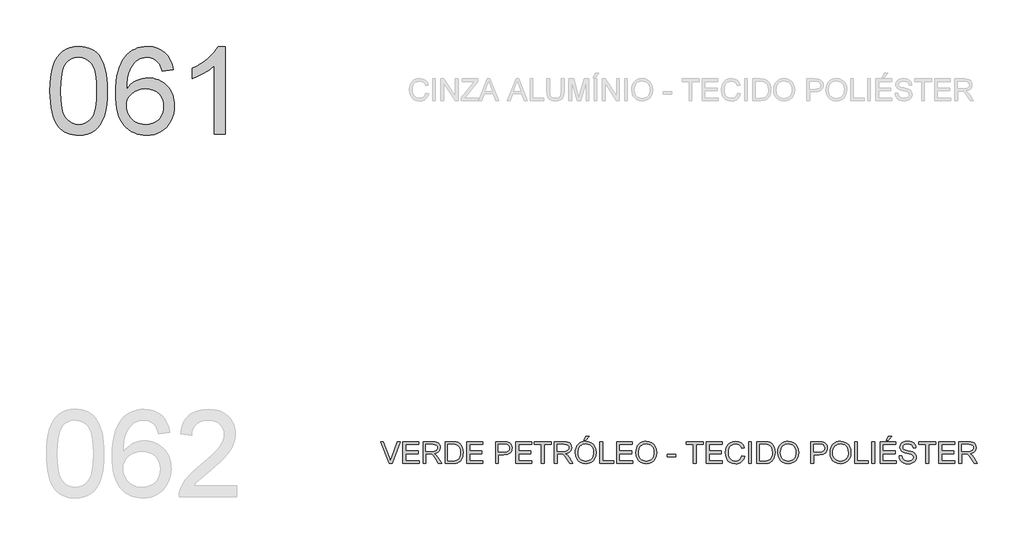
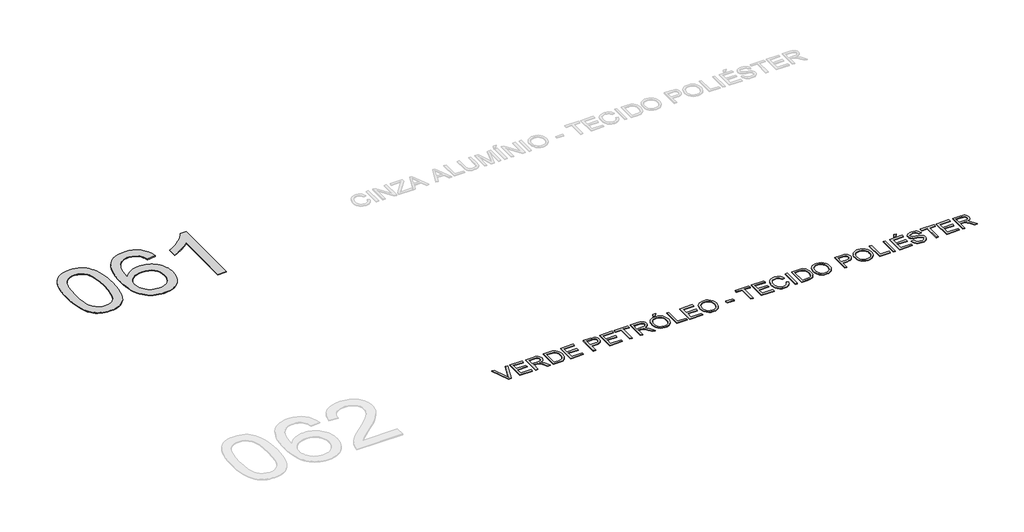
# One storey, part 15 of 39: 2 proxies.
"""IFC4 building model written with IfcOpenShell, lengths in millimetres."""

from ifc_helpers import new_model, si_unit, origin, origin_with_axes, place, context, project, spatial, polyline, outline, extrude, element, save

model = new_model("IFC4")

# Units and contexts
model_context = context("Model", 3, world=origin())
ifc_project = project(units=[si_unit("LENGTHUNIT", "METRE", prefix="MILLI")], contexts=[model_context])

# Site, building, storey
site = spatial("IfcSite", under=ifc_project)
building = spatial("IfcBuilding", under=site)
storey = spatial("IfcBuildingStorey", under=building, Name="Marelli - Linha PROFIT - Planta Baixa", Elevation=0.0)

# Proxies
placement = place(None, origin())
element("IfcBuildingElementProxy", 1, Name="1200mm Arial", ObjectType="1200mm Arial", at=placement, inside=storey, context=model_context, shape_type="SweptSolid", body=[
    extrude(outline(polyline([(-25265.8913909, -79395.792664), (-25263.1230789, -79294.4319773), (-25254.8181428, -79202.8385576), (-25240.9765828, -79121.0124048), (-25221.5983987, -79048.953519), (-25196.766364, -78986.073289), (-25166.5632522, -78931.7831035), (-25130.9890633, -78886.0829627), (-25090.0437972, -78848.9728664), (-25043.5894983, -78820.2596767), (-24991.4882107, -78799.7502555), (-24933.7399345, -78787.4446027), (-24870.3446697, -78783.3427185), (-24822.7039513, -78785.7707396), (-24777.4912541, -78793.0548031), (-24734.7065781, -78805.194909), (-24694.3499232, -78822.1910572), (-24657.3961768, -78843.7581391), (-24624.8202261, -78869.6110463), (-24596.6220712, -78899.7497788), (-24572.801712, -78934.1743365), (-24552.1635321, -78972.7467637), (-24533.5119149, -79015.3291046), (-24502.1683689, -79112.5235278), (-24490.19381, -79169.6831928), (-24481.6405536, -79235.9479371), (-24476.5085997, -79311.3177609), (-24474.7979485, -79395.792664), (-24477.5386693, -79496.5095573), (-24485.7608319, -79587.6431245), (-24499.4644362, -79669.1933658), (-24518.6494823, -79741.1602811), (-24543.2883789, -79804.0681023), (-24573.353535, -79858.4410612), (-24608.8449505, -79904.2791578), (-24649.7626254, -79941.5823921), (-24696.2721066, -79970.4887199), (-24748.5389411, -79991.1360968), (-24806.5631288, -80003.524523), (-24870.3446697, -80007.6539984), (-24913.0189811, -80005.8605737), (-24953.3388478, -80000.4802995), (-24991.3042697, -79991.5131759), (-25026.9152468, -79978.9592028), (-25060.1717792, -79962.8183803), (-25091.0738668, -79943.0907083), (-25119.6215096, -79919.7761868), (-25145.8147077, -79892.8748159), (-25173.9576803, -79850.2786794), (-25198.3482566, -79802.0999336), (-25218.9864365, -79748.3385785), (-25235.8722201, -79688.9946142), (-25249.0056073, -79624.0680406), (-25258.3865982, -79553.5588577), (-25264.0151927, -79477.4670655), (-25265.8913909, -79395.792664)]), holes=[polyline([(-25115.2069257, -79395.4983584), (-25110.7923417, -79526.4919399), (-25097.5485899, -79632.5247279), (-25087.615776, -79676.1808245), (-25075.4756702, -79713.5967226), (-25061.1282724, -79744.7724225), (-25044.5735826, -79769.7079239), (-25007.1967719, -79807.884878), (-24965.6996828, -79835.1541309), (-24920.0823154, -79851.5156826), (-24870.3446697, -79856.9695332), (-24820.6070239, -79851.4972885), (-24774.9896565, -79835.0805545), (-24733.4925675, -79807.7193311), (-24696.1157568, -79769.4136183), (-24679.561067, -79744.418336), (-24665.2136692, -79713.2104465), (-24653.0735633, -79675.7899498), (-24643.1407495, -79632.1568459), (-24629.8969976, -79526.2528166), (-24625.4824137, -79395.4983584), (-24629.7498448, -79267.9720648), (-24642.5521383, -79163.8062779), (-24652.1538583, -79120.4835744), (-24663.889294, -79083.0009976), (-24677.7584452, -79051.3585475), (-24693.761312, -79025.5562241), (-24730.5127233, -78985.5122689), (-24772.488059, -78956.9094438), (-24819.6873189, -78939.7477487), (-24872.1105033, -78934.0271837), (-24921.5906316, -78939.067167), (-24966.4354468, -78954.187117), (-25006.6449489, -78979.3870337), (-25042.2191378, -79014.666917), (-25059.3256506, -79043.2145599), (-25074.151295, -79077.2068562), (-25086.696071, -79116.6438061), (-25096.9599787, -79161.5254095), (-25110.6451889, -79267.6225769), (-25115.2069257, -79395.4983584)])]), origin_with_axes(), (0.0, 0.0, 1.0), 10.0),
    extrude(outline(polyline([(-23570.6911571, -79103.5472071), (-23721.3756223, -79122.3827652), (-23732.4488704, -79082.0812927), (-23745.655834, -79047.7027202), (-23760.9965132, -79019.2470479), (-23778.470908, -78996.7142757), (-23810.8629177, -78969.2886729), (-23846.8233827, -78949.6989567), (-23886.3523031, -78937.9451269), (-23929.4496788, -78934.0271837), (-23964.9870795, -78936.3080521), (-23999.4944107, -78943.1506572), (-24032.9716723, -78954.554999), (-24065.4188642, -78970.5210776), (-24095.0241678, -78996.6315022), (-24122.0359033, -79028.1681863), (-24146.4540707, -79065.1311297), (-24168.2786701, -79107.5203326), (-24186.3508731, -79158.1316981), (-24199.5118515, -79219.7611293), (-24207.7616052, -79292.4086263), (-24211.1001343, -79376.0741891), (-24182.3777475, -79338.2099347), (-24150.6571225, -79305.5512106), (-24115.9382592, -79278.0980167), (-24078.2211577, -79255.8503531), (-24038.5174933, -79238.6610669), (-23997.8389417, -79226.3830053), (-23956.1855028, -79219.0161683), (-23913.5571766, -79216.560556), (-23876.6586125, -79218.2390176), (-23841.158, -79223.2744024), (-23807.055339, -79231.6667104), (-23774.3506296, -79243.4159416), (-23743.0438719, -79258.5220961), (-23713.1350657, -79276.9851737), (-23684.624211, -79298.8051745), (-23657.511308, -79323.9820986), (-23632.7482512, -79351.81697), (-23611.2869353, -79381.6108131), (-23593.1273603, -79413.3636278), (-23578.2695262, -79447.0754142), (-23566.713433, -79482.7461721), (-23558.4590808, -79520.3759017), (-23553.5064694, -79559.9646029), (-23551.855599, -79601.5122757), (-23554.9642018, -79656.4462547), (-23564.2900104, -79709.4120649), (-23579.8330247, -79760.4097065), (-23601.5932447, -79809.4391794), (-23628.7981183, -79854.6702707), (-23660.6750931, -79894.2727675), (-23697.2241694, -79928.2466698), (-23738.4453469, -79956.5919775), (-23783.455709, -79978.9316116), (-23831.3723389, -79994.8884932), (-23882.1952365, -80004.4626221), (-23935.9244019, -80007.6539984), (-23981.9257462, -80005.5386769), (-24025.7519881, -79999.1927125), (-24067.4031277, -79988.6161052), (-24106.8791651, -79973.8088549), (-24144.1801001, -79954.7709616), (-24179.3059329, -79931.5024254), (-24212.2566633, -79904.0032463), (-24243.0322915, -79872.2734242), (-24270.8648637, -79835.6875598), (-24294.9864263, -79793.6202536), (-24315.3969792, -79746.0715057), (-24332.0965225, -79693.0413161), (-24345.0850562, -79634.5296848), (-24354.3625803, -79570.5366117), (-24359.9290947, -79501.062097), (-24361.7845995, -79426.1061404), (-24359.7244604, -79342.1784618), (-24353.5440429, -79264.1828803), (-24343.243347, -79192.1193959), (-24328.8223728, -79125.9880088), (-24310.2811202, -79065.7887188), (-24287.6195893, -79011.521526), (-24260.8377801, -78963.1864303), (-24229.9356925, -78920.7834319), (-24199.9211202, -78888.5707647), (-24167.4141474, -78860.6531198), (-24132.4147741, -78837.0304971), (-24094.9230002, -78817.7028968), (-24054.9388259, -78802.6703188), (-24012.462251, -78791.9327631), (-23967.4932756, -78785.4902296), (-23920.0318997, -78783.3427185), (-23850.6309613, -78788.6586133), (-23787.8151107, -78804.6062978), (-23731.5843477, -78831.1857719), (-23681.9386725, -78868.3970358), (-23640.2208542, -78914.9892904), (-23607.7736622, -78969.7117372), (-23584.5970965, -79032.5643761), (-23570.6911571, -79103.5472071)]), holes=[polyline([(-24211.1001343, -79599.157831), (-24208.9204335, -79632.9202011), (-24202.381331, -79665.9284131), (-24191.4828269, -79698.182467), (-24176.2249212, -79729.6823629), (-24157.3525748, -79758.9473756), (-24135.6107489, -79784.4967801), (-24110.9994434, -79806.3305766), (-24083.5186584, -79824.4487648), (-24053.3431377, -79838.676601), (-24020.6476254, -79848.8393411), (-23985.4321214, -79854.9369852), (-23947.6966258, -79856.9695332), (-23895.3194267, -79852.7572843), (-23848.2581225, -79840.1205378), (-23806.5127131, -79819.0592936), (-23770.0831985, -79789.5735517), (-23740.5330772, -79752.8589286), (-23719.4258478, -79710.1110407), (-23706.7615101, -79661.3298882), (-23702.5400642, -79606.5154709), (-23706.7063278, -79553.8439662), (-23719.2051186, -79507.0769676), (-23740.0364365, -79466.214475), (-23769.2002817, -79431.2564884), (-23805.7401609, -79403.2514715), (-23848.6995809, -79383.247888), (-23898.0785417, -79371.2457379), (-23953.8770433, -79367.2450212), (-24005.5552666, -79371.2457379), (-24053.1683938, -79383.247888), (-24096.716425, -79403.2514715), (-24136.1993601, -79431.2564884), (-24168.9684488, -79465.7546225), (-24192.3749408, -79505.2375576), (-24206.4188359, -79549.7052938), (-24211.1001343, -79599.157831)])]), origin_with_axes(), (0.0, 0.0, 1.0), 10.0),
    extrude(outline(polyline([(-22854.9399473, -79988.8184403), (-23005.6244125, -79988.8184403), (-23005.6244125, -79049.3949774), (-23068.5322337, -79100.2730573), (-23148.3626267, -79151.0775608), (-23232.1661452, -79195.4809177), (-23306.993343, -79227.1555575), (-23306.993343, -79084.7116489), (-23245.8421583, -79054.0486846), (-23188.6457051, -79020.3322998), (-23135.4039834, -78983.5624943), (-23086.1169931, -78943.7392684), (-23042.2562622, -78902.7020318), (-23005.2933187, -78862.2901946), (-22975.2281627, -78822.5037569), (-22952.060794, -78783.3427185), (-22854.9399473, -78783.3427185), (-22854.9399473, -79988.8184403)])), origin_with_axes(), (0.0, 0.0, 1.0), 10.0),
])
element("IfcBuildingElementProxy", 2, Name="300mm Arial", ObjectType="300mm Arial", at=placement, inside=storey, context=model_context, shape_type="SweptSolid", body=[
    extrude(outline(polyline([(-20594.021017, -84530.5663201), (-20713.9505474, -84229.1973896), (-20673.6306808, -84229.1973896), (-20593.3588294, -84446.3213432), (-20577.0984452, -84495.2496485), (-20561.0587902, -84446.3213432), (-20480.5662097, -84229.1973896), (-20440.246343, -84229.1973896), (-20555.0991019, -84530.5663201), (-20594.021017, -84530.5663201)])), origin_with_axes(), (0.0, 0.0, 1.0), 10.0),
    extrude(outline(polyline([(-20405.2239771, -84530.5663201), (-20405.2239771, -84229.1973896), (-20188.6150583, -84229.1973896), (-20188.6150583, -84266.8685059), (-20367.5528608, -84266.8685059), (-20367.5528608, -84356.3374072), (-20198.0328374, -84356.3374072), (-20198.0328374, -84394.0085235), (-20367.5528608, -84394.0085235), (-20367.5528608, -84492.8952038), (-20183.9061688, -84492.8952038), (-20183.9061688, -84530.5663201), (-20405.2239771, -84530.5663201)])), origin_with_axes(), (0.0, 0.0, 1.0), 10.0),
    extrude(outline(polyline([(-20127.3994943, -84530.5663201), (-20127.3994943, -84229.1973896), (-19997.53715, -84229.1973896), (-19962.6343457, -84231.2299376), (-19937.241291, -84237.3275817), (-19918.6816444, -84248.5847708), (-19904.2790643, -84266.0959537), (-19895.0360291, -84287.8101885), (-19891.9550174, -84311.6765329), (-19897.0593801, -84341.3646099), (-19912.3724682, -84365.9759154), (-19923.9722473, -84376.0052983), (-19938.3541341, -84384.0205273), (-19975.4642303, -84394.0085235), (-19954.0534982, -84410.1217548), (-19923.5192926, -84448.8965171), (-19873.2666121, -84530.5663201), (-19917.0445695, -84530.5663201), (-19956.2607902, -84468.0999573), (-19984.5877038, -84426.750021), (-20004.4901197, -84407.2154871), (-20022.4059729, -84400.0417882), (-20044.2581634, -84398.717413), (-20089.728378, -84398.717413), (-20089.728378, -84530.5663201), (-20127.3994943, -84530.5663201)]), holes=[polyline([(-20089.728378, -84361.0462967), (-20005.4098247, -84361.0462967), (-19981.1939924, -84359.7127245), (-19962.4044195, -84355.7120078), (-19948.2593568, -84348.7774322), (-19937.977055, -84338.6422832), (-19931.713864, -84326.3826157), (-19929.6261337, -84313.0744845), (-19933.6084563, -84294.6987789), (-19945.5554241, -84279.8915286), (-19966.1108306, -84270.1242616), (-19995.9184693, -84266.8685059), (-20089.728378, -84266.8685059), (-20089.728378, -84361.0462967)])]), origin_with_axes(), (0.0, 0.0, 1.0), 10.0),
    extrude(outline(polyline([(-19826.0305639, -84530.5663201), (-19826.0305639, -84229.1973896), (-19722.067112, -84229.1973896), (-19668.2827644, -84233.5383972), (-19644.2600701, -84241.9077126), (-19623.9897721, -84255.0962821), (-19603.1492571, -84278.0521186), (-19588.3052186, -84306.5997614), (-19579.4208684, -84340.1873876), (-19576.4594184, -84378.2631741), (-19578.4643752, -84410.6091985), (-19584.4792458, -84439.0740679), (-19593.6395075, -84463.3082943), (-19605.0806376, -84482.9623899), (-19618.250813, -84498.477813), (-19632.5982108, -84510.2960221), (-19649.0701272, -84519.0608107), (-19668.6138581, -84525.4159721), (-19717.0639169, -84530.5663201), (-19826.0305639, -84530.5663201)]), holes=[polyline([(-19788.3594476, -84492.8952038), (-19721.6992301, -84492.8952038), (-19694.1264745, -84491.5340404), (-19673.2123831, -84487.4505502), (-19657.4302455, -84480.8838566), (-19645.2533515, -84472.0730828), (-19632.1659495, -84455.7667134), (-19622.3343032, -84434.6594839), (-19616.1814768, -84408.6594239), (-19614.1305347, -84377.6745629), (-19618.1496455, -84336.6189322), (-19630.2069779, -84306.3054558), (-19648.0216635, -84285.4833349), (-19669.3128339, -84272.9017706), (-19690.9810835, -84268.3768221), (-19722.7292996, -84266.8685059), (-19788.3594476, -84266.8685059), (-19788.3594476, -84492.8952038)])]), origin_with_axes(), (0.0, 0.0, 1.0), 10.0),
    extrude(outline(polyline([(-19524.6616334, -84530.5663201), (-19524.6616334, -84229.1973896), (-19308.0527147, -84229.1973896), (-19308.0527147, -84266.8685059), (-19486.9905171, -84266.8685059), (-19486.9905171, -84356.3374072), (-19317.4704938, -84356.3374072), (-19317.4704938, -84394.0085235), (-19486.9905171, -84394.0085235), (-19486.9905171, -84492.8952038), (-19303.3438251, -84492.8952038), (-19303.3438251, -84530.5663201), (-19524.6616334, -84530.5663201)])), origin_with_axes(), (0.0, 0.0, 1.0), 10.0),
    extrude(outline(polyline([(-19129.1149122, -84530.5663201), (-19129.1149122, -84229.1973896), (-19017.4259385, -84229.1973896), (-18972.3971823, -84232.0668692), (-18952.3200224, -84237.4287493), (-18935.7929238, -84246.1567496), (-18922.4847926, -84258.6463433), (-18912.0645351, -84275.2930036), (-18905.3322946, -84294.9287051), (-18903.0882144, -84316.3854225), (-18904.6034284, -84334.8852883), (-18909.1490703, -84351.9044291), (-18916.7251401, -84367.4428449), (-18927.3316379, -84381.5005356), (-18941.8928671, -84393.1531978), (-18961.3331313, -84401.476528), (-18985.6524304, -84406.470526), (-19014.8507645, -84408.1351921), (-19091.4437959, -84408.1351921), (-19091.4437959, -84530.5663201), (-19129.1149122, -84530.5663201)]), holes=[polyline([(-19091.4437959, -84370.4640758), (-19012.6434725, -84370.4640758), (-18979.2397874, -84367.005985), (-18957.1668677, -84356.6317127), (-18944.8612149, -84339.9850525), (-18940.7593307, -84317.7097977), (-18943.1781548, -84300.7872259), (-18950.4346272, -84286.5134045), (-18961.6274369, -84275.7712502), (-18975.855273, -84269.4436799), (-19013.5263893, -84266.8685059), (-19091.4437959, -84266.8685059), (-19091.4437959, -84370.4640758)])]), origin_with_axes(), (0.0, 0.0, 1.0), 10.0),
    extrude(outline(polyline([(-18851.2904295, -84530.5663201), (-18851.2904295, -84229.1973896), (-18634.6815107, -84229.1973896), (-18634.6815107, -84266.8685059), (-18813.6193132, -84266.8685059), (-18813.6193132, -84356.3374072), (-18644.0992898, -84356.3374072), (-18644.0992898, -84394.0085235), (-18813.6193132, -84394.0085235), (-18813.6193132, -84492.8952038), (-18629.9726212, -84492.8952038), (-18629.9726212, -84530.5663201), (-18851.2904295, -84530.5663201)])), origin_with_axes(), (0.0, 0.0, 1.0), 10.0),
    extrude(outline(polyline([(-18498.1237141, -84530.5663201), (-18498.1237141, -84266.8685059), (-18597.0103944, -84266.8685059), (-18597.0103944, -84229.1973896), (-18361.5659175, -84229.1973896), (-18361.5659175, -84266.8685059), (-18460.4525978, -84266.8685059), (-18460.4525978, -84530.5663201), (-18498.1237141, -84530.5663201)])), origin_with_axes(), (0.0, 0.0, 1.0), 10.0),
    extrude(outline(polyline([(-18319.1859116, -84530.5663201), (-18319.1859116, -84229.1973896), (-18189.3235673, -84229.1973896), (-18154.420763, -84231.2299376), (-18129.0277083, -84237.3275817), (-18110.4680617, -84248.5847708), (-18096.0654816, -84266.0959537), (-18086.8224464, -84287.8101885), (-18083.7414347, -84311.6765329), (-18088.8457974, -84341.3646099), (-18104.1588855, -84365.9759154), (-18115.7586646, -84376.0052983), (-18130.1405514, -84384.0205273), (-18167.2506476, -84394.0085235), (-18145.8399155, -84410.1217548), (-18115.3057099, -84448.8965171), (-18065.0530294, -84530.5663201), (-18108.8309868, -84530.5663201), (-18148.0472075, -84468.0999573), (-18176.3741211, -84426.750021), (-18196.2765371, -84407.2154871), (-18214.1923902, -84400.0417882), (-18236.0445807, -84398.717413), (-18281.5147953, -84398.717413), (-18281.5147953, -84530.5663201), (-18319.1859116, -84530.5663201)]), holes=[polyline([(-18281.5147953, -84361.0462967), (-18197.196242, -84361.0462967), (-18172.9804097, -84359.7127245), (-18154.1908368, -84355.7120078), (-18140.0457741, -84348.7774322), (-18129.7634723, -84338.6422832), (-18123.5002814, -84326.3826157), (-18121.412551, -84313.0744845), (-18125.3948736, -84294.6987789), (-18137.3418414, -84279.8915286), (-18157.8972479, -84270.1242616), (-18187.7048866, -84266.8685059), (-18281.5147953, -84266.8685059), (-18281.5147953, -84361.0462967)])]), origin_with_axes(), (0.0, 0.0, 1.0), 10.0),
    extrude(outline(polyline([(-18031.9436498, -84383.8549804), (-18029.4328552, -84348.5061192), (-18021.9004713, -84317.213157), (-18009.3464983, -84289.9760937), (-17991.7709359, -84266.7949295), (-17970.2268466, -84248.2858666), (-17945.7672924, -84235.0651074), (-17918.3922735, -84227.1326519), (-17888.1017897, -84224.4885001), (-17848.5728693, -84229.454907), (-17813.1274391, -84244.3541278), (-17783.6968795, -84268.1376988), (-17762.2125709, -84299.7571563), (-17749.0791837, -84337.68579), (-17744.701388, -84380.3968896), (-17749.30911, -84423.6782064), (-17763.1322759, -84462.140269), (-17785.4075307, -84493.8149087), (-17815.3715192, -84516.733957), (-17850.5134468, -84530.6398965), (-17888.3225189, -84535.2752096), (-17928.4584446, -84530.1524528), (-17964.1062099, -84514.7841825), (-17993.4631931, -84490.5591531), (-18014.7267724, -84458.8661192), (-18027.6394305, -84422.3998164), (-18031.9436498, -84383.8549804)]), holes=[polyline([(-17994.2725335, -84384.2228624), (-17992.3894375, -84409.1974513), (-17986.7401496, -84431.3669401), (-17977.3246698, -84450.7313286), (-17964.1429981, -84467.2906169), (-17948.1194379, -84480.5527628), (-17930.1782929, -84490.0257242), (-17910.3195629, -84495.709501), (-17888.5432481, -84497.6040933), (-17866.3944527, -84495.6911069), (-17846.301198, -84489.9521478), (-17828.2634839, -84480.3872159), (-17812.2813105, -84466.9963113), (-17799.1962078, -84450.0875351), (-17789.8497058, -84429.9689885), (-17784.2418047, -84406.6406715), (-17782.3725043, -84380.102584), (-17785.5730776, -84346.7540812), (-17795.1747977, -84317.9305269), (-17810.9293442, -84294.358488), (-17832.5883966, -84276.7645316), (-17858.7172153, -84265.8108452), (-17887.8810605, -84262.1596164), (-17908.900918, -84263.9185522), (-17928.4032623, -84269.1953595), (-17946.3880933, -84277.9900385), (-17962.8554111, -84290.302589), (-17976.6004022, -84306.7262208), (-17986.4182529, -84327.8541437), (-17992.3089633, -84353.6863575), (-17994.2725335, -84384.2228624)])]), origin_with_axes(), (0.0, 0.0, 1.0), 10.0),
    extrude(outline(polyline([(-17914.2214113, -84210.3618315), (-17885.9680741, -84153.855157), (-17838.8791787, -84153.855157), (-17885.9680741, -84210.3618315), (-17914.2214113, -84210.3618315)])), origin_with_axes(), (0.0, 0.0, 1.0), 10.0),
    extrude(outline(polyline([(-17692.903603, -84530.5663201), (-17692.903603, -84229.1973896), (-17655.2324867, -84229.1973896), (-17655.2324867, -84492.8952038), (-17504.5480215, -84492.8952038), (-17504.5480215, -84530.5663201), (-17692.903603, -84530.5663201)])), origin_with_axes(), (0.0, 0.0, 1.0), 10.0),
    extrude(outline(polyline([(-17462.1680157, -84530.5663201), (-17462.1680157, -84229.1973896), (-17245.5590969, -84229.1973896), (-17245.5590969, -84266.8685059), (-17424.4968994, -84266.8685059), (-17424.4968994, -84356.3374072), (-17254.976876, -84356.3374072), (-17254.976876, -84394.0085235), (-17424.4968994, -84394.0085235), (-17424.4968994, -84492.8952038), (-17240.8502074, -84492.8952038), (-17240.8502074, -84530.5663201), (-17462.1680157, -84530.5663201)])), origin_with_axes(), (0.0, 0.0, 1.0), 10.0),
    extrude(outline(polyline([(-17198.4702015, -84383.8549804), (-17195.9594069, -84348.5061192), (-17188.4270231, -84317.213157), (-17175.87305, -84289.9760937), (-17158.2974877, -84266.7949295), (-17136.7533983, -84248.2858666), (-17112.2938442, -84235.0651074), (-17084.9188252, -84227.1326519), (-17054.6283414, -84224.4885001), (-17015.099421, -84229.454907), (-16979.6539908, -84244.3541278), (-16950.2234312, -84268.1376988), (-16928.7391227, -84299.7571563), (-16915.6057354, -84337.68579), (-16911.2279397, -84380.3968896), (-16915.8356617, -84423.6782064), (-16929.6588277, -84462.140269), (-16951.9340825, -84493.8149087), (-16981.898071, -84516.733957), (-17017.0399986, -84530.6398965), (-17054.8490706, -84535.2752096), (-17094.9849963, -84530.1524528), (-17130.6327616, -84514.7841825), (-17159.9897448, -84490.5591531), (-17181.2533242, -84458.8661192), (-17194.1659822, -84422.3998164), (-17198.4702015, -84383.8549804)]), holes=[polyline([(-17160.7990852, -84384.2228624), (-17158.9159893, -84409.1974513), (-17153.2667014, -84431.3669401), (-17143.8512216, -84450.7313286), (-17130.6695498, -84467.2906169), (-17114.6459897, -84480.5527628), (-17096.7048446, -84490.0257242), (-17076.8461147, -84495.709501), (-17055.0697998, -84497.6040933), (-17032.9210044, -84495.6911069), (-17012.8277497, -84489.9521478), (-16994.7900356, -84480.3872159), (-16978.8078622, -84466.9963113), (-16965.7227595, -84450.0875351), (-16956.3762576, -84429.9689885), (-16950.7683564, -84406.6406715), (-16948.899056, -84380.102584), (-16952.0996294, -84346.7540812), (-16961.7013494, -84317.9305269), (-16977.4558959, -84294.358488), (-16999.1149483, -84276.7645316), (-17025.2437671, -84265.8108452), (-17054.4076122, -84262.1596164), (-17075.4274697, -84263.9185522), (-17094.929814, -84269.1953595), (-17112.914645, -84277.9900385), (-17129.3819628, -84290.302589), (-17143.1269539, -84306.7262208), (-17152.9448046, -84327.8541437), (-17158.8355151, -84353.6863575), (-17160.7990852, -84384.2228624)])]), origin_with_axes(), (0.0, 0.0, 1.0), 10.0),
    extrude(outline(polyline([(-16765.252364, -84441.0974188), (-16765.252364, -84403.4263025), (-16647.5301256, -84403.4263025), (-16647.5301256, -84441.0974188), (-16765.252364, -84441.0974188)])), origin_with_axes(), (0.0, 0.0, 1.0), 10.0),
    extrude(outline(polyline([(-16407.3767591, -84530.5663201), (-16407.3767591, -84266.8685059), (-16506.2634394, -84266.8685059), (-16506.2634394, -84229.1973896), (-16270.8189625, -84229.1973896), (-16270.8189625, -84266.8685059), (-16369.7056428, -84266.8685059), (-16369.7056428, -84530.5663201), (-16407.3767591, -84530.5663201)])), origin_with_axes(), (0.0, 0.0, 1.0), 10.0),
    extrude(outline(polyline([(-16228.4389566, -84530.5663201), (-16228.4389566, -84229.1973896), (-16011.8300379, -84229.1973896), (-16011.8300379, -84266.8685059), (-16190.7678403, -84266.8685059), (-16190.7678403, -84356.3374072), (-16021.247817, -84356.3374072), (-16021.247817, -84394.0085235), (-16190.7678403, -84394.0085235), (-16190.7678403, -84492.8952038), (-16007.1211484, -84492.8952038), (-16007.1211484, -84530.5663201), (-16228.4389566, -84530.5663201)])), origin_with_axes(), (0.0, 0.0, 1.0), 10.0),
    extrude(outline(polyline([(-15738.7144447, -84423.4390831), (-15701.0433284, -84433.1511677), (-15708.4975373, -84456.5783531), (-15718.4257526, -84477.0486868), (-15730.8279744, -84494.5621691), (-15745.7042026, -84509.1187997), (-15762.7187449, -84520.5622291), (-15781.5359089, -84528.7361071), (-15802.1556947, -84533.640434), (-15824.5781023, -84535.2752096), (-15868.2732863, -84530.3271968), (-15902.9737555, -84515.4831583), (-15929.5716238, -84491.2581289), (-15948.9590049, -84458.1671434), (-15960.7956081, -84419.2636224), (-15964.7411425, -84377.6009865), (-15960.2805733, -84333.6574821), (-15946.8988657, -84295.7104543), (-15925.2949956, -84264.9647166), (-15896.1679386, -84242.6250824), (-15861.6238193, -84229.0226457), (-15823.768762, -84224.4885001), (-15782.4648109, -84230.3562179), (-15764.4960747, -84237.6908652), (-15748.3161647, -84247.9593714), (-15734.1917954, -84260.8904235), (-15722.3896811, -84276.2127086), (-15705.7522179, -84314.0309777), (-15743.4233342, -84323.0072984), (-15756.483145, -84295.5357104), (-15774.3254218, -84276.6909552), (-15797.1708937, -84265.7924511), (-15825.2402899, -84262.1596164), (-15857.5955114, -84266.1879242), (-15884.1749856, -84278.2728478), (-15904.3441159, -84297.1451941), (-15917.4683061, -84321.5357704), (-15924.6695962, -84349.1085259), (-15927.0700262, -84377.5274101), (-15924.2281378, -84412.3290468), (-15915.7024726, -84442.421794), (-15901.1711337, -84466.6560205), (-15880.3122246, -84483.8820949), (-15855.305446, -84494.1735937), (-15828.3304987, -84497.6040933), (-15796.8857852, -84492.931992), (-15770.6833901, -84478.9156879), (-15750.9005358, -84455.702334), (-15738.7144447, -84423.4390831)])), origin_with_axes(), (0.0, 0.0, 1.0), 10.0),
    extrude(outline(polyline([(-15644.5366539, -84530.5663201), (-15644.5366539, -84229.1973896), (-15606.8655376, -84229.1973896), (-15606.8655376, -84530.5663201), (-15644.5366539, -84530.5663201)])), origin_with_axes(), (0.0, 0.0, 1.0), 10.0),
    extrude(outline(polyline([(-15531.523305, -84530.5663201), (-15531.523305, -84229.1973896), (-15427.5598532, -84229.1973896), (-15373.7755055, -84233.5383972), (-15349.7528112, -84241.9077126), (-15329.4825132, -84255.0962821), (-15308.6419982, -84278.0521186), (-15293.7979597, -84306.5997614), (-15284.9136095, -84340.1873876), (-15281.9521595, -84378.2631741), (-15283.9571163, -84410.6091985), (-15289.971987, -84439.0740679), (-15299.1322486, -84463.3082943), (-15310.5733787, -84482.9623899), (-15323.7435541, -84498.477813), (-15338.0909519, -84510.2960221), (-15354.5628683, -84519.0608107), (-15374.1065993, -84525.4159721), (-15422.556658, -84530.5663201), (-15531.523305, -84530.5663201)]), holes=[polyline([(-15493.8521887, -84492.8952038), (-15427.1919712, -84492.8952038), (-15399.6192156, -84491.5340404), (-15378.7051242, -84487.4505502), (-15362.9229866, -84480.8838566), (-15350.7460926, -84472.0730828), (-15337.6586906, -84455.7667134), (-15327.8270443, -84434.6594839), (-15321.6742179, -84408.6594239), (-15319.6232758, -84377.6745629), (-15323.6423866, -84336.6189322), (-15335.699719, -84306.3054558), (-15353.5144046, -84285.4833349), (-15374.805575, -84272.9017706), (-15396.4738246, -84268.3768221), (-15428.2220407, -84266.8685059), (-15493.8521887, -84266.8685059), (-15493.8521887, -84492.8952038)])]), origin_with_axes(), (0.0, 0.0, 1.0), 10.0),
    extrude(outline(polyline([(-15244.2810432, -84383.8549804), (-15241.7702485, -84348.5061192), (-15234.2378647, -84317.213157), (-15221.6838916, -84289.9760937), (-15204.1083293, -84266.7949295), (-15182.5642399, -84248.2858666), (-15158.1046858, -84235.0651074), (-15130.7296668, -84227.1326519), (-15100.439183, -84224.4885001), (-15060.9102627, -84229.454907), (-15025.4648324, -84244.3541278), (-14996.0342728, -84268.1376988), (-14974.5499643, -84299.7571563), (-14961.4165771, -84337.68579), (-14957.0387813, -84380.3968896), (-14961.6465033, -84423.6782064), (-14975.4696693, -84462.140269), (-14997.7449241, -84493.8149087), (-15027.7089126, -84516.733957), (-15062.8508402, -84530.6398965), (-15100.6599122, -84535.2752096), (-15140.7958379, -84530.1524528), (-15176.4436032, -84514.7841825), (-15205.8005865, -84490.5591531), (-15227.0641658, -84458.8661192), (-15239.9768238, -84422.3998164), (-15244.2810432, -84383.8549804)]), holes=[polyline([(-15206.6099268, -84384.2228624), (-15204.7268309, -84409.1974513), (-15199.077543, -84431.3669401), (-15189.6620632, -84450.7313286), (-15176.4803914, -84467.2906169), (-15160.4568313, -84480.5527628), (-15142.5156862, -84490.0257242), (-15122.6569563, -84495.709501), (-15100.8806414, -84497.6040933), (-15078.7318461, -84495.6911069), (-15058.6385913, -84489.9521478), (-15040.6008773, -84480.3872159), (-15024.6187038, -84466.9963113), (-15011.5336011, -84450.0875351), (-15002.1870992, -84429.9689885), (-14996.579198, -84406.6406715), (-14994.7098976, -84380.102584), (-14997.910471, -84346.7540812), (-15007.5121911, -84317.9305269), (-15023.2667375, -84294.358488), (-15044.92579, -84276.7645316), (-15071.0546087, -84265.8108452), (-15100.2184538, -84262.1596164), (-15121.2383113, -84263.9185522), (-15140.7406556, -84269.1953595), (-15158.7254866, -84277.9900385), (-15175.1928045, -84290.302589), (-15188.9377955, -84306.7262208), (-15198.7556462, -84327.8541437), (-15204.6463567, -84353.6863575), (-15206.6099268, -84384.2228624)])]), origin_with_axes(), (0.0, 0.0, 1.0), 10.0),
    extrude(outline(polyline([(-14787.5187579, -84530.5663201), (-14787.5187579, -84229.1973896), (-14675.8297842, -84229.1973896), (-14630.801028, -84232.0668692), (-14610.7238681, -84237.4287493), (-14594.1967695, -84246.1567496), (-14580.8886383, -84258.6463433), (-14570.4683808, -84275.2930036), (-14563.7361403, -84294.9287051), (-14561.4920601, -84316.3854225), (-14563.0072741, -84334.8852883), (-14567.552916, -84351.9044291), (-14575.1289858, -84367.4428449), (-14585.7354836, -84381.5005356), (-14600.2967128, -84393.1531978), (-14619.736977, -84401.476528), (-14644.0562761, -84406.470526), (-14673.2546102, -84408.1351921), (-14749.8476416, -84408.1351921), (-14749.8476416, -84530.5663201), (-14787.5187579, -84530.5663201)]), holes=[polyline([(-14749.8476416, -84370.4640758), (-14671.0473183, -84370.4640758), (-14637.6436331, -84367.005985), (-14615.5707134, -84356.6317127), (-14603.2650607, -84339.9850525), (-14599.1631764, -84317.7097977), (-14601.5820005, -84300.7872259), (-14608.8384729, -84286.5134045), (-14620.0312826, -84275.7712502), (-14634.2591188, -84269.4436799), (-14671.9302351, -84266.8685059), (-14749.8476416, -84266.8685059), (-14749.8476416, -84370.4640758)])]), origin_with_axes(), (0.0, 0.0, 1.0), 10.0),
    extrude(outline(polyline([(-14523.8209438, -84383.8549804), (-14521.3101492, -84348.5061192), (-14513.7777653, -84317.213157), (-14501.2237922, -84289.9760937), (-14483.6482299, -84266.7949295), (-14462.1041406, -84248.2858666), (-14437.6445864, -84235.0651074), (-14410.2695675, -84227.1326519), (-14379.9790837, -84224.4885001), (-14340.4501633, -84229.454907), (-14305.0047331, -84244.3541278), (-14275.5741735, -84268.1376988), (-14254.0898649, -84299.7571563), (-14240.9564777, -84337.68579), (-14236.578682, -84380.3968896), (-14241.186404, -84423.6782064), (-14255.0095699, -84462.140269), (-14277.2848247, -84493.8149087), (-14307.2488132, -84516.733957), (-14342.3907408, -84530.6398965), (-14380.1998129, -84535.2752096), (-14420.3357386, -84530.1524528), (-14455.9835039, -84514.7841825), (-14485.3404871, -84490.5591531), (-14506.6040664, -84458.8661192), (-14519.5167245, -84422.3998164), (-14523.8209438, -84383.8549804)]), holes=[polyline([(-14486.1498275, -84384.2228624), (-14484.2667315, -84409.1974513), (-14478.6174436, -84431.3669401), (-14469.2019638, -84450.7313286), (-14456.0202921, -84467.2906169), (-14439.9967319, -84480.5527628), (-14422.0555869, -84490.0257242), (-14402.1968569, -84495.709501), (-14380.4205421, -84497.6040933), (-14358.2717467, -84495.6911069), (-14338.178492, -84489.9521478), (-14320.1407779, -84480.3872159), (-14304.1586045, -84466.9963113), (-14291.0735018, -84450.0875351), (-14281.7269998, -84429.9689885), (-14276.1190987, -84406.6406715), (-14274.2497983, -84380.102584), (-14277.4503716, -84346.7540812), (-14287.0520917, -84317.9305269), (-14302.8066381, -84294.358488), (-14324.4656906, -84276.7645316), (-14350.5945093, -84265.8108452), (-14379.7583545, -84262.1596164), (-14400.778212, -84263.9185522), (-14420.2805563, -84269.1953595), (-14438.2653873, -84277.9900385), (-14454.7327051, -84290.302589), (-14468.4776961, -84306.7262208), (-14478.2955469, -84327.8541437), (-14484.1862573, -84353.6863575), (-14486.1498275, -84384.2228624)])]), origin_with_axes(), (0.0, 0.0, 1.0), 10.0),
    extrude(outline(polyline([(-14184.780897, -84530.5663201), (-14184.780897, -84229.1973896), (-14147.1097807, -84229.1973896), (-14147.1097807, -84492.8952038), (-13996.4253155, -84492.8952038), (-13996.4253155, -84530.5663201), (-14184.780897, -84530.5663201)])), origin_with_axes(), (0.0, 0.0, 1.0), 10.0),
    extrude(outline(polyline([(-13949.3364201, -84530.5663201), (-13949.3364201, -84229.1973896), (-13911.6653038, -84229.1973896), (-13911.6653038, -84530.5663201), (-13949.3364201, -84530.5663201)])), origin_with_axes(), (0.0, 0.0, 1.0), 10.0),
    extrude(outline(polyline([(-13836.3230712, -84530.5663201), (-13836.3230712, -84229.1973896), (-13619.7141525, -84229.1973896), (-13619.7141525, -84266.8685059), (-13798.6519549, -84266.8685059), (-13798.6519549, -84356.3374072), (-13629.1319315, -84356.3374072), (-13629.1319315, -84394.0085235), (-13798.6519549, -84394.0085235), (-13798.6519549, -84492.8952038), (-13615.0052629, -84492.8952038), (-13615.0052629, -84530.5663201), (-13836.3230712, -84530.5663201)])), origin_with_axes(), (0.0, 0.0, 1.0), 10.0),
    extrude(outline(polyline([(-13751.5630595, -84210.3618315), (-13723.3097223, -84153.855157), (-13676.2208269, -84153.855157), (-13723.3097223, -84210.3618315), (-13751.5630595, -84210.3618315)])), origin_with_axes(), (0.0, 0.0, 1.0), 10.0),
    extrude(outline(polyline([(-13572.6252571, -84426.9707502), (-13534.9541408, -84426.9707502), (-13530.6315273, -84447.8756446), (-13522.8140349, -84464.6786547), (-13510.6187468, -84478.0143771), (-13493.1627461, -84488.517408), (-13471.8255904, -84495.332422), (-13447.9868371, -84497.6040933), (-13426.9991693, -84495.884245), (-13408.6234636, -84490.7247), (-13393.7334399, -84482.5577197), (-13383.2028178, -84471.8155654), (-13376.9396268, -84459.4823215), (-13374.8518965, -84446.5420724), (-13376.4153949, -84433.932917), (-13381.1058904, -84423.0344129), (-13390.6340341, -84413.7361954), (-13406.7104772, -84405.9279001), (-13461.5616827, -84391.5437141), (-13497.568133, -84382.0247675), (-13520.606743, -84372.9656733), (-13539.3595277, -84360.2921386), (-13552.6492647, -84344.9330653), (-13560.5679247, -84327.2195472), (-13563.207478, -84307.4826782), (-13559.9425253, -84285.4189555), (-13550.1476672, -84264.845155), (-13534.080421, -84247.4075484), (-13511.9983043, -84234.7524077), (-13485.4924065, -84227.054477), (-13456.1538174, -84224.4885001), (-13424.368813, -84227.1740386), (-13396.5569342, -84235.2306543), (-13373.7114623, -84248.4928003), (-13356.8256787, -84266.7949295), (-13346.1387067, -84288.9966079), (-13341.8896697, -84313.9574013), (-13379.560786, -84313.9574013), (-13386.4769675, -84291.4798114), (-13400.8979417, -84275.2562154), (-13423.4307139, -84265.4337661), (-13454.6822894, -84262.1596164), (-13486.6696289, -84265.3969779), (-13508.6137899, -84275.1090626), (-13521.3057187, -84289.4012781), (-13525.5363617, -84306.3790322), (-13522.5381234, -84320.8551887), (-13513.5434086, -84332.4986539), (-13492.2798293, -84342.9097143), (-13452.0335391, -84353.541504), (-13410.4996618, -84363.6398648), (-13385.3733215, -84372.4506385), (-13363.8982101, -84386.1174547), (-13348.9162158, -84402.9848441), (-13340.1146391, -84422.868866), (-13337.1807802, -84445.5855792), (-13340.5560975, -84468.8081301), (-13350.6820494, -84490.6511236), (-13367.1447687, -84509.4498935), (-13389.5303881, -84523.539774), (-13416.4501531, -84532.3413507), (-13446.5153091, -84535.2752096), (-13483.4230703, -84532.1114244), (-13513.800926, -84522.620069), (-13537.9983643, -84506.764355), (-13556.3648729, -84484.5074943), (-13568.1554908, -84457.3945912), (-13572.6252571, -84426.9707502)])), origin_with_axes(), (0.0, 0.0, 1.0), 10.0),
    extrude(outline(polyline([(-13205.3318731, -84530.5663201), (-13205.3318731, -84266.8685059), (-13304.2185534, -84266.8685059), (-13304.2185534, -84229.1973896), (-13068.7740765, -84229.1973896), (-13068.7740765, -84266.8685059), (-13167.6607568, -84266.8685059), (-13167.6607568, -84530.5663201), (-13205.3318731, -84530.5663201)])), origin_with_axes(), (0.0, 0.0, 1.0), 10.0),
    extrude(outline(polyline([(-13026.3940706, -84530.5663201), (-13026.3940706, -84229.1973896), (-12809.7851519, -84229.1973896), (-12809.7851519, -84266.8685059), (-12988.7229543, -84266.8685059), (-12988.7229543, -84356.3374072), (-12819.2029309, -84356.3374072), (-12819.2029309, -84394.0085235), (-12988.7229543, -84394.0085235), (-12988.7229543, -84492.8952038), (-12805.0762623, -84492.8952038), (-12805.0762623, -84530.5663201), (-13026.3940706, -84530.5663201)])), origin_with_axes(), (0.0, 0.0, 1.0), 10.0),
    extrude(outline(polyline([(-12748.5695879, -84530.5663201), (-12748.5695879, -84229.1973896), (-12618.7072436, -84229.1973896), (-12583.8044393, -84231.2299376), (-12558.4113846, -84237.3275817), (-12539.8517379, -84248.5847708), (-12525.4491578, -84266.0959537), (-12516.2061227, -84287.8101885), (-12513.125111, -84311.6765329), (-12518.2294736, -84341.3646099), (-12533.5425617, -84365.9759154), (-12545.1423409, -84376.0052983), (-12559.5242276, -84384.0205273), (-12596.6343239, -84394.0085235), (-12575.2235917, -84410.1217548), (-12544.6893861, -84448.8965171), (-12494.4367056, -84530.5663201), (-12538.214663, -84530.5663201), (-12577.4308837, -84468.0999573), (-12605.7577973, -84426.750021), (-12625.6602133, -84407.2154871), (-12643.5760665, -84400.0417882), (-12665.428257, -84398.717413), (-12710.8984716, -84398.717413), (-12710.8984716, -84530.5663201), (-12748.5695879, -84530.5663201)]), holes=[polyline([(-12710.8984716, -84361.0462967), (-12626.5799183, -84361.0462967), (-12602.3640859, -84359.7127245), (-12583.574513, -84355.7120078), (-12569.4294503, -84348.7774322), (-12559.1471486, -84338.6422832), (-12552.8839576, -84326.3826157), (-12550.7962273, -84313.0744845), (-12554.7785499, -84294.6987789), (-12566.7255177, -84279.8915286), (-12587.2809241, -84270.1242616), (-12617.0885628, -84266.8685059), (-12710.8984716, -84266.8685059), (-12710.8984716, -84361.0462967)])]), origin_with_axes(), (0.0, 0.0, 1.0), 10.0),
])

save(model, "model.ifc")
